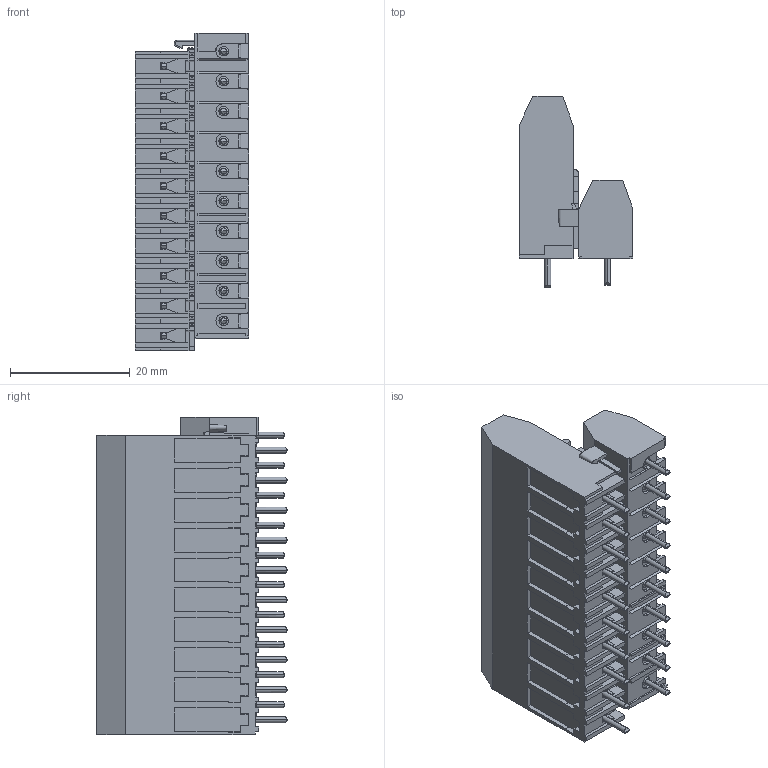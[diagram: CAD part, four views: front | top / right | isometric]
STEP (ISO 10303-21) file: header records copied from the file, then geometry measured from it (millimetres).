
FILE_DESCRIPTION (( 'STEP AP214' ), '1' );
FILE_NAME ('970-ENO-DS-20.STEP', '2009-03-02T19:57:27', ( 'weco' ), ( 'weco' ), 'SwSTEP 2.0', 'SolidWorks 2007', '' );
FILE_SCHEMA (( 'AUTOMOTIVE_DESIGN' ));
Length unit declared in the file: millimetre
Products named in the file (1): 970-ENO-DS-20
Bounding box: 19 x 31.8 x 53 mm (x, y, z)
Volume: 15119.4 mm3; surface area: 11429.9 mm2
Topology: 1 solids, 1 shells, 2901 faces, 8667 edges, 5616 vertices
Faces by surface type: plane 2292, cylinder 448, cone 120, bspline 41
Entity records: 105841 total; most frequent: CARTESIAN_POINT 33988, ORIENTED_EDGE 17334, DIRECTION 11357, EDGE_CURVE 8667, VERTEX_POINT 5616, LINE 5257, VECTOR 5257, B_SPLINE_CURVE_WITH_KNOTS 3135
